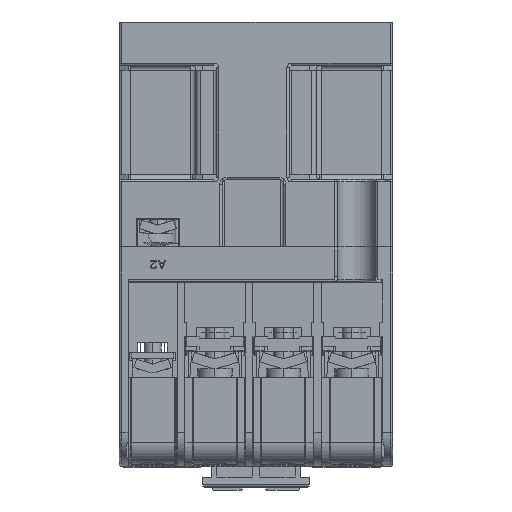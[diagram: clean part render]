
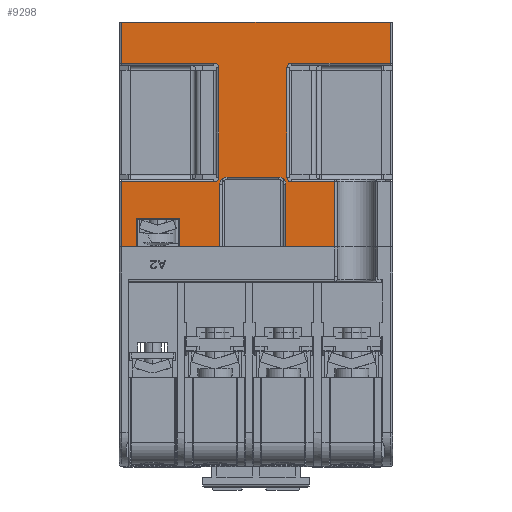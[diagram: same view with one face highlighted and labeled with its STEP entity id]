
A CAD part, front view. The second image highlights one B-rep face of the part: STEP entity #9298.
In plain terms, the highlighted planar face has unit normal (0, -1, 0).
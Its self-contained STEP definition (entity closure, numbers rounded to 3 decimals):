
#170=DIRECTION('',(0.,0.,-1.));
#171=VECTOR('',#170,5.8);
#172=CARTESIAN_POINT('',(-24.5,-41.1,5.8));
#173=LINE('',#172,#171);
#174=DIRECTION('',(-1.,0.,0.));
#175=VECTOR('',#174,3.);
#176=CARTESIAN_POINT('',(-24.5,-41.1,0.));
#177=LINE('',#176,#175);
#178=DIRECTION('',(0.,0.,-1.));
#179=VECTOR('',#178,13.3);
#180=CARTESIAN_POINT('',(-27.5,-41.1,13.3));
#181=LINE('',#180,#179);
#182=DIRECTION('',(-1.,0.,0.));
#183=VECTOR('',#182,18.9);
#184=CARTESIAN_POINT('',(-8.6,-41.1,13.3));
#185=LINE('',#184,#183);
#186=CARTESIAN_POINT('',(-8.6,-41.1,14.3));
#187=DIRECTION('',(0.,-1.,0.));
#188=DIRECTION('',(0.,0.,-1.));
#189=AXIS2_PLACEMENT_3D('',#186,#187,#188);
#191=DIRECTION('',(0.,0.,-1.));
#192=VECTOR('',#191,22.3);
#193=CARTESIAN_POINT('',(-7.6,-41.1,36.6));
#194=LINE('',#193,#192);
#195=CARTESIAN_POINT('',(-8.6,-41.1,36.6));
#196=DIRECTION('',(0.,-1.,0.));
#197=DIRECTION('',(1.,0.,0.));
#198=AXIS2_PLACEMENT_3D('',#195,#196,#197);
#200=DIRECTION('',(1.,0.,0.));
#201=VECTOR('',#200,18.9);
#202=CARTESIAN_POINT('',(-27.5,-41.1,37.6));
#203=LINE('',#202,#201);
#204=DIRECTION('',(0.,0.,-1.));
#205=VECTOR('',#204,8.4);
#206=CARTESIAN_POINT('',(-27.5,-41.1,46.));
#207=LINE('',#206,#205);
#208=DIRECTION('',(1.,0.,0.));
#209=VECTOR('',#208,55.);
#210=CARTESIAN_POINT('',(-27.5,-41.1,46.));
#211=LINE('',#210,#209);
#212=DIRECTION('',(0.,0.,1.));
#213=VECTOR('',#212,8.4);
#214=CARTESIAN_POINT('',(27.5,-41.1,37.6));
#215=LINE('',#214,#213);
#216=DIRECTION('',(1.,0.,0.));
#217=VECTOR('',#216,20.2);
#218=CARTESIAN_POINT('',(7.3,-41.1,37.6));
#219=LINE('',#218,#217);
#220=CARTESIAN_POINT('',(7.3,-41.1,36.6));
#221=DIRECTION('',(0.,-1.,0.));
#222=DIRECTION('',(0.,0.,1.));
#223=AXIS2_PLACEMENT_3D('',#220,#221,#222);
#225=DIRECTION('',(0.,0.,1.));
#226=VECTOR('',#225,22.3);
#227=CARTESIAN_POINT('',(6.3,-41.1,14.3));
#228=LINE('',#227,#226);
#229=CARTESIAN_POINT('',(7.3,-41.1,14.3));
#230=DIRECTION('',(0.,-1.,0.));
#231=DIRECTION('',(-1.,0.,0.));
#232=AXIS2_PLACEMENT_3D('',#229,#230,#231);
#234=DIRECTION('',(-1.,0.,0.));
#235=VECTOR('',#234,8.8);
#236=CARTESIAN_POINT('',(16.1,-41.1,13.3));
#237=LINE('',#236,#235);
#238=DIRECTION('',(0.,0.,1.));
#239=VECTOR('',#238,13.3);
#240=CARTESIAN_POINT('',(16.1,-41.1,0.));
#241=LINE('',#240,#239);
#242=DIRECTION('',(-1.,0.,0.));
#243=VECTOR('',#242,10.);
#244=CARTESIAN_POINT('',(16.1,-41.1,0.));
#245=LINE('',#244,#243);
#246=DIRECTION('',(0.,0.,-1.));
#247=VECTOR('',#246,12.8);
#248=CARTESIAN_POINT('',(6.1,-41.1,12.8));
#249=LINE('',#248,#247);
#250=CARTESIAN_POINT('',(4.6,-41.1,12.8));
#251=DIRECTION('',(0.,-1.,0.));
#252=DIRECTION('',(1.,0.,0.));
#253=AXIS2_PLACEMENT_3D('',#250,#251,#252);
#255=DIRECTION('',(1.,0.,0.));
#256=VECTOR('',#255,10.5);
#257=CARTESIAN_POINT('',(-5.9,-41.1,14.3));
#258=LINE('',#257,#256);
#259=CARTESIAN_POINT('',(-5.9,-41.1,12.8));
#260=DIRECTION('',(0.,-1.,0.));
#261=DIRECTION('',(0.,0.,1.));
#262=AXIS2_PLACEMENT_3D('',#259,#260,#261);
#264=DIRECTION('',(0.,0.,1.));
#265=VECTOR('',#264,12.8);
#266=CARTESIAN_POINT('',(-7.4,-41.1,0.));
#267=LINE('',#266,#265);
#268=DIRECTION('',(-1.,0.,0.));
#269=VECTOR('',#268,8.2);
#270=CARTESIAN_POINT('',(-7.4,-41.1,0.));
#271=LINE('',#270,#269);
#272=DIRECTION('',(0.,0.,1.));
#273=VECTOR('',#272,5.8);
#274=CARTESIAN_POINT('',(-15.6,-41.1,0.));
#275=LINE('',#274,#273);
#276=DIRECTION('',(1.,0.,0.));
#277=VECTOR('',#276,8.9);
#278=CARTESIAN_POINT('',(-24.5,-41.1,5.8));
#279=LINE('',#278,#277);
#7933=CARTESIAN_POINT('',(6.1,-41.1,0.));
#7935=VERTEX_POINT('',#7933);
#7939=CARTESIAN_POINT('',(6.1,-41.1,12.8));
#7940=VERTEX_POINT('',#7939);
#7941=CARTESIAN_POINT('',(4.6,-41.1,14.3));
#7942=VERTEX_POINT('',#7941);
#7943=CARTESIAN_POINT('',(-5.9,-41.1,14.3));
#7944=VERTEX_POINT('',#7943);
#7949=CARTESIAN_POINT('',(-7.4,-41.1,12.8));
#7950=VERTEX_POINT('',#7949);
#7952=CARTESIAN_POINT('',(-7.4,-41.1,0.));
#7954=VERTEX_POINT('',#7952);
#8023=CARTESIAN_POINT('',(-27.5,-41.1,0.));
#8025=VERTEX_POINT('',#8023);
#8029=CARTESIAN_POINT('',(-27.5,-41.1,13.3));
#8030=VERTEX_POINT('',#8029);
#8032=CARTESIAN_POINT('',(-27.5,-41.1,46.));
#8034=VERTEX_POINT('',#8032);
#8035=CARTESIAN_POINT('',(-27.5,-41.1,37.6));
#8036=VERTEX_POINT('',#8035);
#8039=CARTESIAN_POINT('',(27.5,-41.1,46.));
#8041=VERTEX_POINT('',#8039);
#8045=CARTESIAN_POINT('',(27.5,-41.1,37.6));
#8046=VERTEX_POINT('',#8045);
#8079=CARTESIAN_POINT('',(-8.6,-41.1,37.6));
#8080=VERTEX_POINT('',#8079);
#8099=CARTESIAN_POINT('',(-8.6,-41.1,13.3));
#8100=VERTEX_POINT('',#8099);
#8135=CARTESIAN_POINT('',(-7.6,-41.1,36.6));
#8136=CARTESIAN_POINT('',(-7.6,-41.1,14.3));
#8137=VERTEX_POINT('',#8135);
#8138=VERTEX_POINT('',#8136);
#8139=CARTESIAN_POINT('',(6.3,-41.1,14.3));
#8140=CARTESIAN_POINT('',(6.3,-41.1,36.6));
#8141=VERTEX_POINT('',#8139);
#8142=VERTEX_POINT('',#8140);
#8145=CARTESIAN_POINT('',(7.3,-41.1,13.3));
#8146=VERTEX_POINT('',#8145);
#8343=CARTESIAN_POINT('',(16.1,-41.1,13.3));
#8344=VERTEX_POINT('',#8343);
#8346=CARTESIAN_POINT('',(16.1,-41.1,0.));
#8348=VERTEX_POINT('',#8346);
#8563=CARTESIAN_POINT('',(7.3,-41.1,37.6));
#8564=VERTEX_POINT('',#8563);
#8868=CARTESIAN_POINT('',(-24.5,-41.1,0.));
#8870=VERTEX_POINT('',#8868);
#8871=CARTESIAN_POINT('',(-24.5,-41.1,5.8));
#8872=VERTEX_POINT('',#8871);
#8873=CARTESIAN_POINT('',(-15.6,-41.1,0.));
#8875=VERTEX_POINT('',#8873);
#8877=CARTESIAN_POINT('',(-15.6,-41.1,5.8));
#8878=VERTEX_POINT('',#8877);
#9239=CARTESIAN_POINT('',(0.,-41.1,0.));
#9240=DIRECTION('',(0.,1.,0.));
#9241=DIRECTION('',(1.,0.,0.));
#9242=AXIS2_PLACEMENT_3D('',#9239,#9240,#9241);
#9243=PLANE('',#9242);
#9245=ORIENTED_EDGE('',*,*,#9244,.T.);
#9247=ORIENTED_EDGE('',*,*,#9246,.T.);
#9249=ORIENTED_EDGE('',*,*,#9248,.F.);
#9251=ORIENTED_EDGE('',*,*,#9250,.F.);
#9253=ORIENTED_EDGE('',*,*,#9252,.T.);
#9255=ORIENTED_EDGE('',*,*,#9254,.F.);
#9257=ORIENTED_EDGE('',*,*,#9256,.T.);
#9259=ORIENTED_EDGE('',*,*,#9258,.F.);
#9261=ORIENTED_EDGE('',*,*,#9260,.F.);
#9263=ORIENTED_EDGE('',*,*,#9262,.T.);
#9265=ORIENTED_EDGE('',*,*,#9264,.F.);
#9267=ORIENTED_EDGE('',*,*,#9266,.F.);
#9269=ORIENTED_EDGE('',*,*,#9268,.T.);
#9271=ORIENTED_EDGE('',*,*,#9270,.F.);
#9273=ORIENTED_EDGE('',*,*,#9272,.T.);
#9275=ORIENTED_EDGE('',*,*,#9274,.F.);
#9277=ORIENTED_EDGE('',*,*,#9276,.F.);
#9279=ORIENTED_EDGE('',*,*,#9278,.T.);
#9281=ORIENTED_EDGE('',*,*,#9280,.F.);
#9283=ORIENTED_EDGE('',*,*,#9282,.T.);
#9285=ORIENTED_EDGE('',*,*,#9284,.F.);
#9287=ORIENTED_EDGE('',*,*,#9286,.T.);
#9289=ORIENTED_EDGE('',*,*,#9288,.F.);
#9291=ORIENTED_EDGE('',*,*,#9290,.T.);
#9293=ORIENTED_EDGE('',*,*,#9292,.T.);
#9295=ORIENTED_EDGE('',*,*,#9294,.F.);
#9296=EDGE_LOOP('',(#9245,#9247,#9249,#9251,#9253,#9255,#9257,#9259,#9261,#9263,
#9265,#9267,#9269,#9271,#9273,#9275,#9277,#9279,#9281,#9283,#9285,#9287,#9289,
#9291,#9293,#9295));
#9297=FACE_OUTER_BOUND('',#9296,.F.);
#9298=ADVANCED_FACE('',(#9297),#9243,.F.);
#190=CIRCLE('',#189,1.);
#199=CIRCLE('',#198,1.);
#224=CIRCLE('',#223,1.);
#233=CIRCLE('',#232,1.);
#254=CIRCLE('',#253,1.5);
#263=CIRCLE('',#262,1.5);
#9244=EDGE_CURVE('',#8872,#8870,#173,.T.);
#9246=EDGE_CURVE('',#8870,#8025,#177,.T.);
#9248=EDGE_CURVE('',#8030,#8025,#181,.T.);
#9250=EDGE_CURVE('',#8100,#8030,#185,.T.);
#9252=EDGE_CURVE('',#8100,#8138,#190,.T.);
#9254=EDGE_CURVE('',#8137,#8138,#194,.T.);
#9256=EDGE_CURVE('',#8137,#8080,#199,.T.);
#9258=EDGE_CURVE('',#8036,#8080,#203,.T.);
#9260=EDGE_CURVE('',#8034,#8036,#207,.T.);
#9262=EDGE_CURVE('',#8034,#8041,#211,.T.);
#9264=EDGE_CURVE('',#8046,#8041,#215,.T.);
#9266=EDGE_CURVE('',#8564,#8046,#219,.T.);
#9268=EDGE_CURVE('',#8564,#8142,#224,.T.);
#9270=EDGE_CURVE('',#8141,#8142,#228,.T.);
#9272=EDGE_CURVE('',#8141,#8146,#233,.T.);
#9274=EDGE_CURVE('',#8344,#8146,#237,.T.);
#9276=EDGE_CURVE('',#8348,#8344,#241,.T.);
#9278=EDGE_CURVE('',#8348,#7935,#245,.T.);
#9280=EDGE_CURVE('',#7940,#7935,#249,.T.);
#9282=EDGE_CURVE('',#7940,#7942,#254,.T.);
#9284=EDGE_CURVE('',#7944,#7942,#258,.T.);
#9286=EDGE_CURVE('',#7944,#7950,#263,.T.);
#9288=EDGE_CURVE('',#7954,#7950,#267,.T.);
#9290=EDGE_CURVE('',#7954,#8875,#271,.T.);
#9292=EDGE_CURVE('',#8875,#8878,#275,.T.);
#9294=EDGE_CURVE('',#8872,#8878,#279,.T.);
